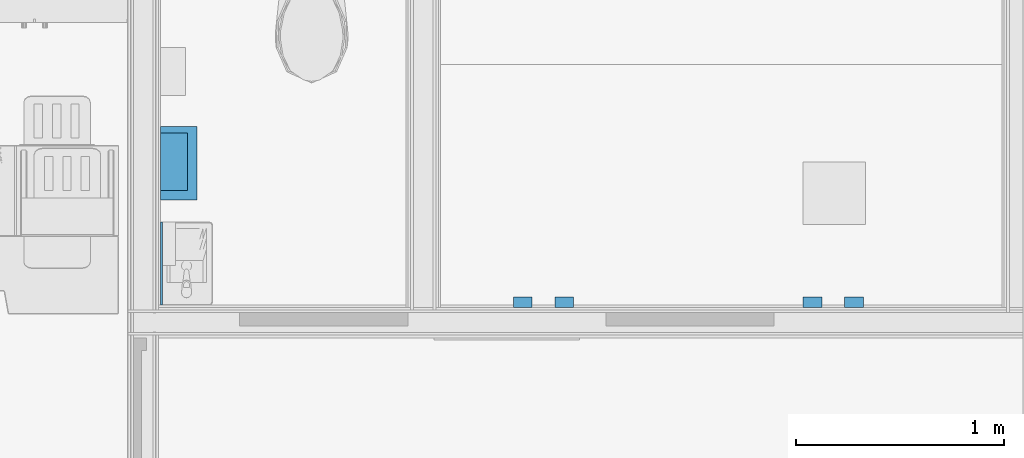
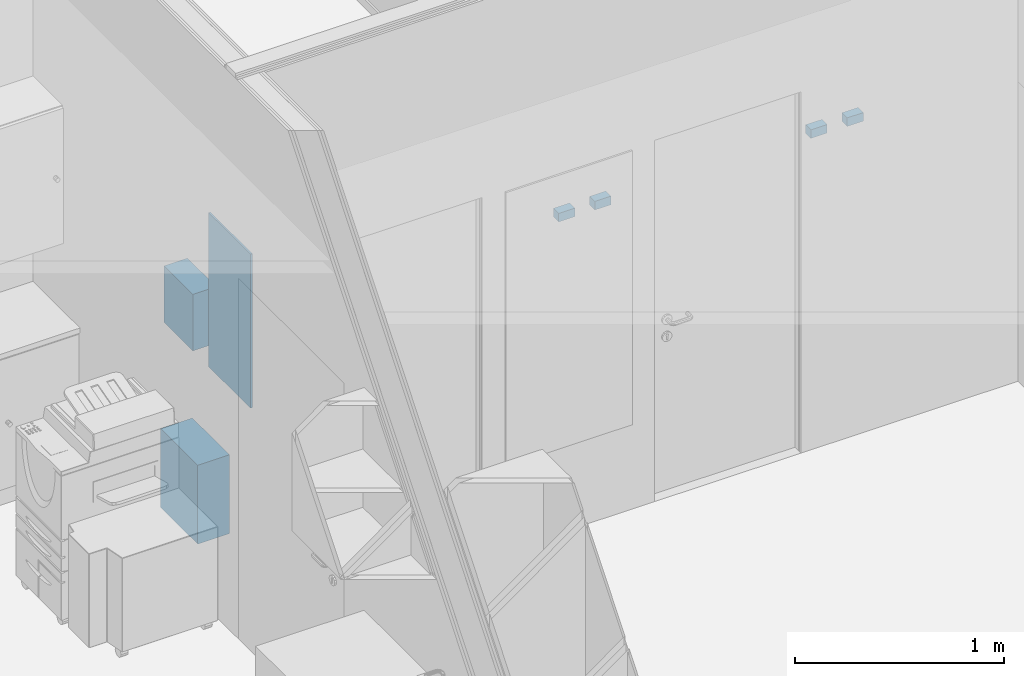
# One storey, part 96 of 153: 7 discrete accessories.
"""IFC2X3 building model written with IfcOpenShell, lengths in millimetres."""

from ifc_helpers import new_model, entity, si_unit, converted_unit, derived_unit, money_unit, direction, frame, origin_with_axes, place, context, subcontext, project, spatial, faceted_brep, material, type_object, element, save


model = new_model("IFC2X3")

# Units and contexts
model_context = context("Model", 3, precision=0.01, world=origin_with_axes(), true_north=direction((0.0, 1.0)))
body_context = subcontext(model_context, "Body", "Model", "MODEL_VIEW")
ifc_project = project(units=[si_unit("LENGTHUNIT", "METRE", prefix="MILLI"), si_unit("AREAUNIT", "SQUARE_METRE"), si_unit("VOLUMEUNIT", "CUBIC_METRE"), converted_unit("PLANEANGLEUNIT", "DEGREE", entity("IfcPlaneAngleMeasure", 0.0174532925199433), si_unit("PLANEANGLEUNIT", "RADIAN"), dimensions=[0, 0, 0, 0, 0, 0, 0]), money_unit("EUR"), converted_unit("TIMEUNIT", "Year", entity("IfcTimeMeasure", 31557600.0), si_unit("TIMEUNIT", "SECOND"), dimensions=[0, 0, 1, 0, 0, 0, 0]), si_unit("MASSUNIT", "GRAM", prefix="KILO"), si_unit("THERMODYNAMICTEMPERATUREUNIT", "DEGREE_CELSIUS"), si_unit("LUMINOUSINTENSITYUNIT", "LUMEN"), si_unit("ENERGYUNIT", "JOULE", prefix="MEGA"), derived_unit("THERMALCONDUCTANCEUNIT", [(si_unit("POWERUNIT", "WATT"), 1), (si_unit("LENGTHUNIT", "METRE"), -1), (si_unit("THERMODYNAMICTEMPERATUREUNIT", "KELVIN"), -1)]), derived_unit("SPECIFICHEATCAPACITYUNIT", [(si_unit("ENERGYUNIT", "JOULE"), 1), (si_unit("MASSUNIT", "GRAM", prefix="KILO"), -1), (si_unit("THERMODYNAMICTEMPERATUREUNIT", "KELVIN"), -1)]), derived_unit("MASSDENSITYUNIT", [(si_unit("MASSUNIT", "GRAM", prefix="KILO"), 1), (si_unit("VOLUMEUNIT", "CUBIC_METRE"), -1)])], contexts=[model_context])

# Site, building, storey
site_placement = place(None, frame((0.0, 0.0, 8650.0), z_axis=(0.0, 0.0, 1.0), x_axis=(1.0, 0.0, 0.0)))
site = spatial("IfcSite", under=ifc_project, at=site_placement, Name="43301:001:0844", CompositionType="ELEMENT")
building_placement = place(site_placement, origin_with_axes())
building = spatial("IfcBuilding", under=site, at=building_placement, Name="Kuressaare Ametikooli tuulikute mehaanikute õppekorpus", CompositionType="ELEMENT")
storey_placement = place(building_placement, frame((0.0, 0.0, 4100.0), z_axis=(0.0, 0.0, 1.0), x_axis=(1.0, 0.0, 0.0)))
storey = spatial("IfcBuildingStorey", under=building, at=storey_placement, Name="2.korrus", CompositionType="ELEMENT", Elevation=4100.0)

# Discrete accessories
ifc_material_1 = material(Name="GENEERILINE - SISEMINE VOODER")
discrete_accessory_type_1 = type_object("IfcDiscreteAccessoryType", Name="GENEERILINE - SISEMINE VOODER 10")
discrete_accessory_1_placement = place(storey_placement, frame((128884.9926662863, 18631.04701316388, 1200.0), z_axis=(0.0, 0.0, 1.0), x_axis=(-1.041563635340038e-06, 0.9999999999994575, 0.0)))
element("IfcDiscreteAccessory", 1, at=discrete_accessory_1_placement, inside=storey, type_object=discrete_accessory_type_1, material=ifc_material_1, Name="P1", context=body_context, shape_type="Brep", body=[
    faceted_brep([(0.0, 0.0, 899.9999999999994), (399.999999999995, 0.0, 899.9999999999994), (399.999999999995, 9.999999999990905, 899.9999999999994), (0.0, 9.999999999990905, 899.9999999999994), (0.0, 0.0, 0.0), (399.999999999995, 0.0, 0.0), (399.999999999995, 9.999999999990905, 0.0), (0.0, 9.999999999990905, 0.0)], [[[0, 1, 2, 3]], [[4, 5, 1, 0]], [[2, 1, 5, 6]], [[3, 2, 6, 7]], [[4, 0, 3, 7]], [[7, 6, 5, 4]]]),
])
ifc_material_2 = material(Name="GENEERILINE - KONSTRUKTRIOON")
discrete_accessory_type_2 = type_object("IfcDiscreteAccessoryType", Name="GENEERILINE - KONSTRUKTRIOON 50")
for number, where, z_axis, x_axis, name in (
    (2, (130861.9907946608, 18671.04687498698, 1700.0), (0.0, 0.0, 1.0), (1.0, 0.0, 0.0), "N1"),
    (3, (130661.9907946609, 18671.04687498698, 1700.0), (0.0, 0.0, 1.0), (1.0, 0.0, 0.0), "N1"),
):
    element("IfcDiscreteAccessory", number, at=place(storey_placement, frame(where, z_axis=z_axis, x_axis=x_axis)), inside=storey, type_object=discrete_accessory_type_2, material=ifc_material_2, Name=name, context=body_context, shape_type="Brep", body=[
        faceted_brep([(0.0, 0.0, 49.99999999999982), (0.0, 0.0, 0.0), (-90.00000000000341, 0.0, 0.0), (-90.00000000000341, 0.0, 49.99999999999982), (0.0, -49.99999999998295, 49.99999999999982), (0.0, -49.99999999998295, 0.0), (-90.00000000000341, -49.99999999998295, 0.0), (-90.00000000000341, -49.99999999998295, 49.99999999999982)], [[[0, 1, 2, 3]], [[4, 5, 1, 0]], [[2, 1, 5, 6]], [[3, 2, 6, 7]], [[4, 0, 3, 7]], [[7, 6, 5, 4]]]),
    ])
for number, where, z_axis, x_axis, name in (
    (4, (131966.5378693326, 18671.04687498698, 1700.0), (0.0, 0.0, 1.0), (1.0, 0.0, 0.0), "N1"),
    (5, (132166.5378693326, 18671.04687498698, 1700.0), (0.0, 0.0, 1.0), (1.0, 0.0, 0.0), "N1"),
):
    element("IfcDiscreteAccessory", number, at=place(storey_placement, frame(where, z_axis=z_axis, x_axis=x_axis)), inside=storey, type_object=discrete_accessory_type_2, material=ifc_material_2, Name=name, context=body_context, shape_type="Brep", body=[
        faceted_brep([(0.0, 0.0, 49.99999999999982), (0.0, 0.0, 0.0), (0.0, -49.99999999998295, 0.0), (0.0, -49.99999999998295, 49.99999999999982), (90.00000000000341, 0.0, 49.99999999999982), (90.00000000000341, 0.0, 0.0), (90.00000000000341, -49.99999999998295, 0.0), (90.00000000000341, -49.99999999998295, 49.99999999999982)], [[[0, 1, 2, 3]], [[4, 5, 1, 0]], [[2, 1, 5, 6]], [[3, 2, 6, 7]], [[4, 0, 3, 7]], [[7, 6, 5, 4]]]),
    ])
discrete_accessory_type_3 = type_object("IfcDiscreteAccessoryType", Name="GENEERILINE - KONSTRUKTRIOON 460")
discrete_accessory_2_placement = place(storey_placement, frame((128874.9917613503, 19136.40568821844, 99.99999999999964), z_axis=(0.0, 0.0, 1.0), x_axis=(1.0, 0.0, 0.0)))
element("IfcDiscreteAccessory", 6, at=discrete_accessory_2_placement, inside=storey, type_object=discrete_accessory_type_3, material=ifc_material_2, Name="PR1", context=body_context, shape_type="Brep", body=[
    faceted_brep([(0.0, 0.0, 460.0000000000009), (0.0, 0.0, 0.0), (175.9999999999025, 0.0001833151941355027, 0.0), (175.9999999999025, 0.0001833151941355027, 460.0000000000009), (-0.0003697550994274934, 354.9999999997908, 460.0000000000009), (-0.0003697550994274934, 354.9999999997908, 0.0), (175.999630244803, 355.000183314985, 0.0), (175.999630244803, 355.000183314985, 460.0000000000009)], [[[0, 1, 2, 3]], [[4, 5, 1, 0]], [[2, 1, 5, 6]], [[3, 2, 6, 7]], [[4, 0, 3, 7]], [[7, 6, 5, 4]]]),
])
discrete_accessory_type_4 = type_object("IfcDiscreteAccessoryType", Name="GENEERILINE - KONSTRUKTRIOON 330")
discrete_accessory_3_placement = place(storey_placement, frame((128874.9920317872, 19183.30121380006, 1200.0), z_axis=(0.0, 0.0, 1.0), x_axis=(1.0, 0.0, 0.0)))
element("IfcDiscreteAccessory", 7, at=discrete_accessory_3_placement, inside=storey, type_object=discrete_accessory_type_4, material=ifc_material_2, Name="PD", context=body_context, shape_type="Brep", body=[
    faceted_brep([(0.0, 0.0, 330.0000000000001), (0.0, 0.0, 0.0), (129.9999999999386, 0.0001354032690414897, 0.0), (129.9999999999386, 0.0001354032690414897, 330.0000000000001), (-0.0002864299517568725, 274.9999999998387, 330.0000000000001), (-0.0002864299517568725, 274.9999999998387, 0.0), (129.99971356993, 275.0001354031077, 0.0), (129.99971356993, 275.0001354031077, 330.0000000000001)], [[[0, 1, 2, 3]], [[4, 5, 1, 0]], [[2, 1, 5, 6]], [[3, 2, 6, 7]], [[4, 0, 3, 7]], [[7, 6, 5, 4]]]),
])

save(model, "model.ifc")
